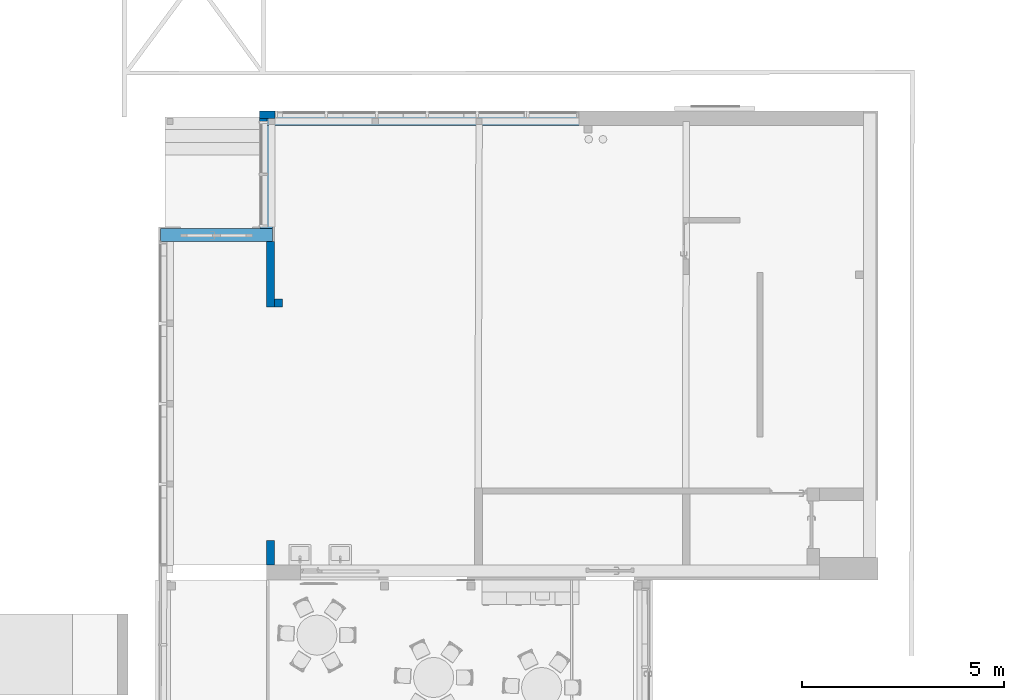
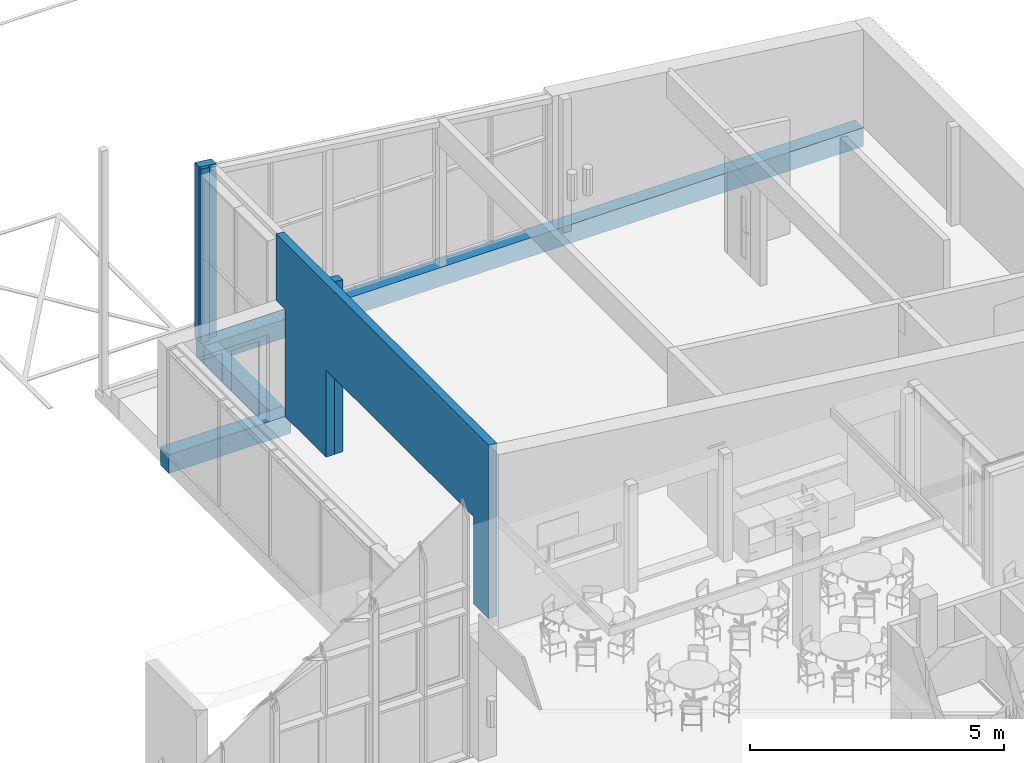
# One storey, part 134 of 301: 7 walls, 1 opening.
"""IFC2X3 building model written with IfcOpenShell, lengths in millimetres."""

from ifc_helpers import new_model, entity, si_unit, converted_unit, derived_unit, money_unit, direction, frame, origin_with_axes, place, context, subcontext, project, spatial, faceted_brep, material, type_object, element, save


model = new_model("IFC2X3")

# Units and contexts
model_context = context("Model", 3, precision=0.01, world=origin_with_axes(), true_north=direction((0.0, 1.0)))
body_context = subcontext(model_context, "Body", "Model", "MODEL_VIEW")
ifc_project = project(units=[si_unit("LENGTHUNIT", "METRE", prefix="MILLI"), si_unit("AREAUNIT", "SQUARE_METRE"), si_unit("VOLUMEUNIT", "CUBIC_METRE"), converted_unit("PLANEANGLEUNIT", "DEGREE", entity("IfcPlaneAngleMeasure", 0.0174532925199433), si_unit("PLANEANGLEUNIT", "RADIAN"), dimensions=[0, 0, 0, 0, 0, 0, 0]), money_unit("EUR"), converted_unit("TIMEUNIT", "Year", entity("IfcTimeMeasure", 31557600.0), si_unit("TIMEUNIT", "SECOND"), dimensions=[0, 0, 1, 0, 0, 0, 0]), si_unit("MASSUNIT", "GRAM", prefix="KILO"), si_unit("THERMODYNAMICTEMPERATUREUNIT", "DEGREE_CELSIUS"), si_unit("LUMINOUSINTENSITYUNIT", "LUMEN"), si_unit("ENERGYUNIT", "JOULE", prefix="MEGA"), derived_unit("THERMALCONDUCTANCEUNIT", [(si_unit("POWERUNIT", "WATT"), 1), (si_unit("LENGTHUNIT", "METRE"), -1), (si_unit("THERMODYNAMICTEMPERATUREUNIT", "KELVIN"), -1)]), derived_unit("SPECIFICHEATCAPACITYUNIT", [(si_unit("ENERGYUNIT", "JOULE"), 1), (si_unit("MASSUNIT", "GRAM", prefix="KILO"), -1), (si_unit("THERMODYNAMICTEMPERATUREUNIT", "KELVIN"), -1)]), derived_unit("MASSDENSITYUNIT", [(si_unit("MASSUNIT", "GRAM", prefix="KILO"), 1), (si_unit("VOLUMEUNIT", "CUBIC_METRE"), -1)])], contexts=[model_context])

# Site, building, storey
site_placement = place(None, frame((0.0, 0.0, 8650.0), z_axis=(0.0, 0.0, 1.0), x_axis=(1.0, 0.0, 0.0)))
site = spatial("IfcSite", under=ifc_project, at=site_placement, Name="43301:001:0844", CompositionType="ELEMENT")
building_placement = place(site_placement, origin_with_axes())
building = spatial("IfcBuilding", under=site, at=building_placement, Name="Kuressaare Ametikooli tuulikute mehaanikute õppekorpus", CompositionType="ELEMENT")
storey_placement = place(building_placement, origin_with_axes())
storey = spatial("IfcBuildingStorey", under=building, at=storey_placement, Name="1.korrus", CompositionType="ELEMENT", Elevation=0.0)

# Wall, opening
ifc_material = material(Name="GENEERILINE - KONSTRUKTRIOON")
wall_type_1 = type_object("IfcWallType", Name="GENEERILINE - KONSTRUKTRIOON 190", PredefinedType="NOTDEFINED")
wall_1_placement = place(storey_placement, frame((121167.1894836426, 40678.78491300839, 0.0688909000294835), z_axis=(0.0, 0.0, 1.0), x_axis=(0.0, -1.0, 0.0)))
wall_1 = element("IfcWall", 1, at=wall_1_placement, inside=storey, type_object=wall_type_1, material=ifc_material, Name="SS-XX", context=body_context, shape_type="Brep", body=[
    faceted_brep([(0.0, -189.9999999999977, 4167.87314476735), (0.0, 0.0, 4144.544078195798), (0.0, 0.0, 2579.93110909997), (0.0, -189.9999999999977, 2579.93110909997), (8369.957627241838, 0.0, 4144.544070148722), (8369.957627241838, -189.9999999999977, 4167.873136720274), (8369.957627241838, 0.0, 0.0), (7773.506875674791, 0.0, 0.0), (7773.506875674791, 0.0, 2089.93110909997), (1973.506875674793, 0.0, 2089.93110909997), (1973.506875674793, 0.0, 0.0), (359.9999999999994, 0.0, 0.0), (359.9999999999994, 0.0, 2579.93110909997), (359.9999999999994, -189.9999999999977, 2579.93110909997), (359.9999999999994, -189.9999999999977, 0.0), (1973.506875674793, -189.9999999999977, 0.0), (1973.506875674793, -189.9999999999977, 2089.93110909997), (7773.506875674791, -189.9999999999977, 2089.93110909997), (7773.506875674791, -189.9999999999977, 0.0), (8369.957627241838, -189.9999999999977, 0.0)], [[[0, 1, 2, 3]], [[4, 1, 0, 5]], [[1, 4, 6, 7, 8, 9, 10, 11, 12, 2]], [[2, 12, 13, 3]], [[5, 0, 3, 13, 14, 15, 16, 17, 18, 19]], [[4, 5, 19, 6]], [[18, 7, 6, 19]], [[8, 7, 18, 17]], [[9, 8, 17, 16]], [[10, 9, 16, 15]], [[11, 10, 15, 14]], [[11, 14, 13, 12]]]),
])
opening_placement = place(wall_1_placement, frame((40678.78491300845, -121167.1894836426, -0.0688909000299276), z_axis=(0.0, 0.0, 1.0), x_axis=(0.0, 1.0, 0.0)))
element("IfcOpeningElement", 2, at=opening_placement, cuts=wall_1, context=body_context, shape_type="Brep", body=[
    faceted_brep([(120787.1894836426, 38705.27803733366, 0.0), (120787.1894836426, 38705.27803733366, 2090.0), (121357.1894836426, 38705.27803733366, 2090.0), (121357.1894836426, 38705.27803733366, 0.0), (120787.1894836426, 32905.27803733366, 0.0), (120787.1894836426, 32905.27803733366, 2090.0), (121357.1894836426, 32905.27803733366, 2090.0), (121357.1894836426, 32905.27803733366, 0.0)], [[[0, 1, 2, 3]], [[0, 4, 5, 1]], [[1, 5, 6, 2]], [[3, 2, 6, 7]], [[4, 0, 3, 7]], [[5, 4, 7, 6]]]),
])

# Walls
wall_2_placement = place(storey_placement, frame((121367.1895312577, 38705.27801295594, 0.0688909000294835), z_axis=(0.0, 0.0, 1.0), x_axis=(-1.0, 0.0, 0.0)))
element("IfcWall", 3, at=wall_2_placement, inside=storey, type_object=wall_type_1, material=ifc_material, Name="SS-XX", context=body_context, shape_type="Brep", body=[
    faceted_brep([(200.0000476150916, -189.9999999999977, 4144.544076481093), (0.0, -189.9999999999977, 4119.987158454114), (0.0, -189.9999999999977, 0.0), (200.0000476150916, -189.9999999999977, 0.0), (0.0, 0.0, 4119.987158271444), (200.0000476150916, -1.385318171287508e-05, 4144.544076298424), (0.0, 0.0, 0.0), (200.0000476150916, -2.437766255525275e-05, 0.0)], [[[0, 1, 2, 3]], [[4, 1, 0, 5]], [[1, 4, 6, 2]], [[2, 6, 7, 3]], [[5, 0, 3, 7]], [[4, 5, 7, 6]]]),
])
wall_3_placement = place(storey_placement, frame((121186.2346405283, 43564.1461379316, 0.0688909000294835), z_axis=(0.0, 0.0, 1.0), x_axis=(-1.0, 0.0, 0.0)))
element("IfcWall", 4, at=wall_3_placement, inside=storey, type_object=wall_type_1, material=ifc_material, Name="SS-XX", context=body_context, shape_type="Brep", body=[
    faceted_brep([(389.0460724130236, 0.0, 4189.974480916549), (0.0, 0.0, 4142.205629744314), (0.0, 0.0, 0.0), (389.0460724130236, 0.0, 0.0), (0.0, 189.9999999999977, 4142.205629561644), (389.0460724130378, 189.9999999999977, 4189.974480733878), (0.0, 189.9999999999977, 4124.768642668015), (0.0, 183.6143748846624, 4124.768642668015), (0.0, 183.6143748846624, 3993.727428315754), (0.0, 189.9999999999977, 3993.727428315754), (0.0, 189.9999999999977, 0.0), (6.664351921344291, 189.9999999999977, 0.0), (6.664351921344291, 188.6143748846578, 0.0), (161.6643519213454, 188.6143748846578, 0.0), (161.6643519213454, 189.9999999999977, 0.0), (389.0460724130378, 189.9999999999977, 0.0), (161.6643519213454, 189.9999999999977, 4009.610742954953), (84.16435192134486, 189.9999999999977, 4009.610742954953), (84.16435192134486, 189.9999999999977, 4135.442206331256), (84.16435192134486, 183.6143748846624, 4135.442206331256), (84.16435192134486, 183.6143748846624, 4004.400991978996), (84.16435192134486, 188.6143748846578, 4004.400991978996), (6.664351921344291, 188.6143748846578, 3994.572588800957), (6.664351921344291, 189.9999999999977, 3994.572588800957), (84.16435192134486, 188.6143748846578, 4009.610742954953), (161.6643519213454, 188.6143748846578, 4009.610742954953)], [[[0, 1, 2, 3]], [[4, 1, 0, 5]], [[1, 4, 6, 7, 8, 9, 10, 2]], [[11, 12, 13, 14, 15, 3, 2, 10]], [[5, 0, 3, 15]], [[4, 5, 15, 14, 16, 17, 18, 6]], [[6, 18, 19, 7]], [[7, 19, 20, 8]], [[20, 21, 22, 23, 9, 8]], [[10, 9, 23, 11]], [[12, 11, 23, 22]], [[13, 12, 22, 21, 24, 25]], [[25, 16, 14, 13]], [[16, 25, 24, 17]], [[18, 17, 24, 21, 20, 19]]]),
])
wall_4_placement = place(storey_placement, frame((120797.1885681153, 43564.1461379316, 0.0688909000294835), z_axis=(0.0, 0.0, 1.0), x_axis=(0.0, -1.0, 0.0)))
element("IfcWall", 5, at=wall_4_placement, inside=storey, type_object=wall_type_1, material=ifc_material, Name="SS-XX", context=body_context, shape_type="Brep", body=[
    faceted_brep([(189.9999999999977, 0.0, 4189.974480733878), (189.9999999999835, 190.0000000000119, 4166.645414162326), (189.9999999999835, 190.0000000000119, 0.0), (189.9999999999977, 0.0, 0.0), (264.5288925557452, 190.0000000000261, 4166.645414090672), (264.5288925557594, 0.0, 4189.974480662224), (264.5288925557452, 190.0000000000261, 0.0), (264.5288925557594, 0.0, 0.0)], [[[0, 1, 2, 3]], [[4, 1, 0, 5]], [[1, 4, 6, 2]], [[3, 2, 6, 7]], [[5, 0, 3, 7]], [[4, 5, 7, 6]]]),
])
wall_type_2 = type_object("IfcWallType", Name="GENEERILINE - KONSTRUKTRIOON 310", PredefinedType="NOTDEFINED")
wall_5_placement = place(storey_placement, frame((136080.4547532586, 43514.1461379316, -450.0), z_axis=(0.0, 0.0, 1.0), x_axis=(-1.0, 0.0, 0.0)))
element("IfcWall", 6, at=wall_5_placement, inside=storey, type_object=wall_type_2, material=ifc_material, Name="VS-XX", context=body_context, shape_type="Brep", body=[
    faceted_brep([(15271.48716292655, 310.0000000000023, 0.0), (15271.48716292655, 0.0, 0.0), (310.0000000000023, 0.0, 0.0), (310.0000000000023, 310.0000000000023, 0.0), (15271.48716292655, 310.0000000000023, 450.0), (15271.48716292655, 0.0, 450.0), (310.0000000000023, 0.0, 450.0), (310.0000000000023, 310.0000000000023, 450.0)], [[[0, 1, 2, 3]], [[1, 0, 4, 5]], [[1, 5, 6, 2]], [[7, 3, 2, 6]], [[4, 0, 3, 7]], [[5, 4, 7, 6]]]),
])
wall_6_placement = place(storey_placement, frame((120808.967590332, 43514.1461379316, -450.0), z_axis=(0.0, 0.0, 1.0), x_axis=(0.0, -1.0, 0.0)))
element("IfcWall", 7, at=wall_6_placement, inside=storey, type_object=wall_type_2, material=ifc_material, Name="VS-XX", context=body_context, shape_type="Brep", body=[
    faceted_brep([(310.0000000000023, 310.0000000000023, 0.0), (2867.511268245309, 310.0000000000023, 0.0), (2867.511268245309, 0.0, 0.0), (310.0000000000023, 0.0, 0.0), (310.0000000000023, 310.0000000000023, 450.0), (2867.511268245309, 310.0000000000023, 450.0), (2867.511268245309, 0.0, 450.0), (310.0000000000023, 0.0, 450.0)], [[[0, 1, 2, 3]], [[4, 5, 1, 0]], [[6, 2, 1, 5]], [[3, 2, 6, 7]], [[7, 4, 0, 3]], [[7, 6, 5, 4]]]),
])
wall_type_3 = type_object("IfcWallType", Name="GENEERILINE - KONSTRUKTRIOON 328", PredefinedType="NOTDEFINED")
wall_7_placement = place(storey_placement, frame((120808.967590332, 40646.6348696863, -450.0), z_axis=(0.0, 0.0, 1.0), x_axis=(-1.0, 0.0, 0.0)))
element("IfcWall", 8, at=wall_7_placement, inside=storey, type_object=wall_type_3, material=ifc_material, Name="VS-XX", context=body_context, shape_type="Brep", body=[
    faceted_brep([(2464.03851483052, 328.000000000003, 450.0), (2314.418550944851, 328.000000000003, 450.0), (2314.418550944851, 327.8499331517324, 450.0), (-310.0001184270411, 327.8499331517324, 450.0), (-310.0000000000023, 0.0, 450.0), (2464.03851483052, 0.0, 450.0), (-310.0000000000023, 328.000000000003, 250.0), (2314.418550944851, 328.000000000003, 250.0), (2464.03851483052, 328.000000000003, 0.0), (-310.0000000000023, 328.000000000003, 0.0), (2314.418550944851, 327.8499331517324, 250.0), (-310.0001184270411, 327.8499331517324, 250.0), (-310.0000000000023, 0.0, 0.0), (2464.03851483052, 0.0, 0.0)], [[[0, 1, 2, 3, 4, 5]], [[6, 7, 1, 0, 8, 9]], [[10, 2, 1, 7]], [[10, 11, 3, 2]], [[3, 11, 6, 9, 12, 4]], [[12, 13, 5, 4]], [[5, 13, 8, 0]], [[7, 6, 11, 10]], [[9, 8, 13, 12]]]),
])

save(model, "model.ifc")
